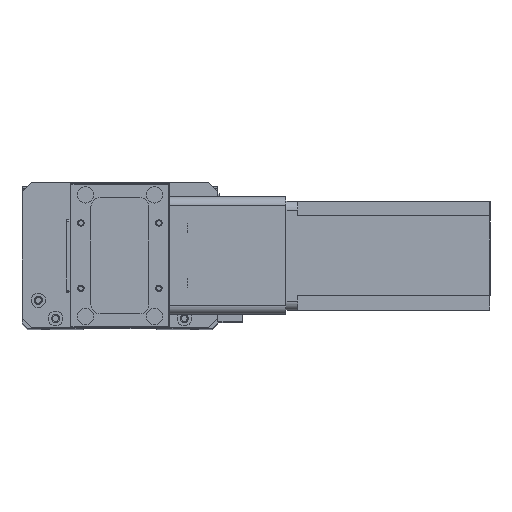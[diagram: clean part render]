
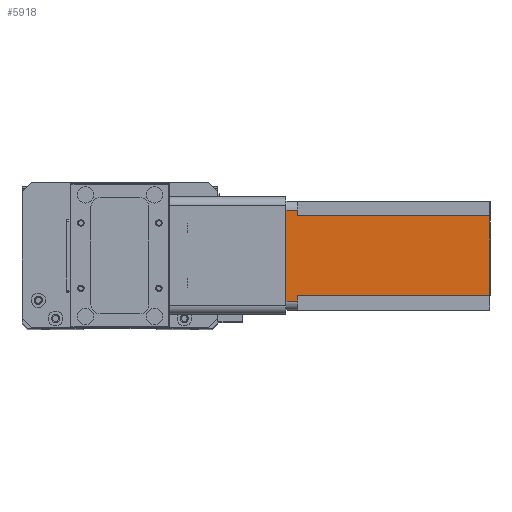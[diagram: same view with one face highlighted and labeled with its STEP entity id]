
A CAD part, top view. The second image highlights one B-rep face of the part: STEP entity #5918.
In plain terms, the highlighted planar face has unit normal (0, 0, 1) as drawn and (0, 1, 0) by its records, which use the part's own axes.
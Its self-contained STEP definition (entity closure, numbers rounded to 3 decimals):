
#280 = VECTOR ( 'NONE', #12351, 1000. ) ;
#429 = CARTESIAN_POINT ( 'NONE',  ( 52., 60., -6.5 ) ) ;
#661 = PLANE ( 'NONE',  #2883 ) ;
#745 = VECTOR ( 'NONE', #21604, 1000. ) ;
#1007 = CARTESIAN_POINT ( 'NONE',  ( 0., 60., 0. ) ) ;
#1807 = VECTOR ( 'NONE', #11116, 1000. ) ;
#1888 = ORIENTED_EDGE ( 'NONE', *, *, #19960, .F. ) ;
#2365 = DIRECTION ( 'NONE',  ( 1., 0., 0. ) ) ;
#2403 = LINE ( 'NONE', #7214, #1807 ) ;
#2883 = AXIS2_PLACEMENT_3D ( 'NONE', #6440, #10358, #23993 ) ;
#3086 = CARTESIAN_POINT ( 'NONE',  ( 52., 60., -6.5 ) ) ;
#3296 = EDGE_CURVE ( 'NONE', #23151, #22274, #9408, .T. ) ;
#3418 = LINE ( 'NONE', #5785, #22845 ) ;
#3483 = VERTEX_POINT ( 'NONE', #24194 ) ;
#4407 = EDGE_CURVE ( 'NONE', #23151, #23159, #2403, .T. ) ;
#5411 = LINE ( 'NONE', #6468, #280 ) ;
#5716 = ORIENTED_EDGE ( 'NONE', *, *, #10121, .T. ) ;
#5785 = CARTESIAN_POINT ( 'NONE',  ( 55., 60., -112.5 ) ) ;
#5918 = ADVANCED_FACE ( 'NONE', ( #19460 ), #661, .T. ) ;
#6194 = EDGE_LOOP ( 'NONE', ( #15505, #16143, #1888, #15882, #10814, #17402, #5716, #9010 ) ) ;
#6440 = CARTESIAN_POINT ( 'NONE',  ( 0., 60., -112.5 ) ) ;
#6468 = CARTESIAN_POINT ( 'NONE',  ( 5., 60., -112.5 ) ) ;
#7214 = CARTESIAN_POINT ( 'NONE',  ( 52., 60., -112.5 ) ) ;
#7345 = EDGE_CURVE ( 'NONE', #7471, #22274, #10870, .T. ) ;
#7471 = VERTEX_POINT ( 'NONE', #21410 ) ;
#7498 = VERTEX_POINT ( 'NONE', #15632 ) ;
#7818 = DIRECTION ( 'NONE',  ( 0., 0., -1. ) ) ;
#8447 = LINE ( 'NONE', #429, #18167 ) ;
#9010 = ORIENTED_EDGE ( 'NONE', *, *, #20074, .T. ) ;
#9408 = LINE ( 'NONE', #19764, #13991 ) ;
#9420 = CARTESIAN_POINT ( 'NONE',  ( 8., 60., -112.5 ) ) ;
#10121 = EDGE_CURVE ( 'NONE', #7471, #15599, #11002, .T. ) ;
#10358 = DIRECTION ( 'NONE',  ( 0., 1., 0. ) ) ;
#10646 = EDGE_CURVE ( 'NONE', #3483, #15054, #3418, .T. ) ;
#10814 = ORIENTED_EDGE ( 'NONE', *, *, #3296, .T. ) ;
#10853 = CARTESIAN_POINT ( 'NONE',  ( 52., 60., -112.5 ) ) ;
#10870 = LINE ( 'NONE', #9420, #21223 ) ;
#11002 = LINE ( 'NONE', #19652, #745 ) ;
#11116 = DIRECTION ( 'NONE',  ( 0., 0., 1. ) ) ;
#11372 = DIRECTION ( 'NONE',  ( 0., 0., -1. ) ) ;
#12351 = DIRECTION ( 'NONE',  ( 0., 0., 1. ) ) ;
#13367 = CARTESIAN_POINT ( 'NONE',  ( 8., 60., -112.5 ) ) ;
#13719 = EDGE_CURVE ( 'NONE', #3483, #7498, #13928, .T. ) ;
#13928 = LINE ( 'NONE', #1007, #19999 ) ;
#13991 = VECTOR ( 'NONE', #23609, 1000. ) ;
#14194 = CARTESIAN_POINT ( 'NONE',  ( 5., 60., -6.5 ) ) ;
#15054 = VERTEX_POINT ( 'NONE', #16413 ) ;
#15505 = ORIENTED_EDGE ( 'NONE', *, *, #13719, .F. ) ;
#15599 = VERTEX_POINT ( 'NONE', #14194 ) ;
#15632 = CARTESIAN_POINT ( 'NONE',  ( 5., 60., 0. ) ) ;
#15882 = ORIENTED_EDGE ( 'NONE', *, *, #4407, .F. ) ;
#16143 = ORIENTED_EDGE ( 'NONE', *, *, #10646, .T. ) ;
#16413 = CARTESIAN_POINT ( 'NONE',  ( 55., 60., -6.5 ) ) ;
#17402 = ORIENTED_EDGE ( 'NONE', *, *, #7345, .F. ) ;
#18167 = VECTOR ( 'NONE', #2365, 1000. ) ;
#18458 = DIRECTION ( 'NONE',  ( -1., 0., 0. ) ) ;
#19460 = FACE_OUTER_BOUND ( 'NONE', #6194, .T. ) ;
#19652 = CARTESIAN_POINT ( 'NONE',  ( 8., 60., -6.5 ) ) ;
#19764 = CARTESIAN_POINT ( 'NONE',  ( 0., 60., -112.5 ) ) ;
#19960 = EDGE_CURVE ( 'NONE', #23159, #15054, #8447, .T. ) ;
#19999 = VECTOR ( 'NONE', #18458, 1000. ) ;
#20074 = EDGE_CURVE ( 'NONE', #15599, #7498, #5411, .T. ) ;
#21223 = VECTOR ( 'NONE', #11372, 1000. ) ;
#21410 = CARTESIAN_POINT ( 'NONE',  ( 8., 60., -6.5 ) ) ;
#21604 = DIRECTION ( 'NONE',  ( -1., 0., 0. ) ) ;
#22274 = VERTEX_POINT ( 'NONE', #13367 ) ;
#22845 = VECTOR ( 'NONE', #7818, 1000. ) ;
#23151 = VERTEX_POINT ( 'NONE', #10853 ) ;
#23159 = VERTEX_POINT ( 'NONE', #3086 ) ;
#23609 = DIRECTION ( 'NONE',  ( -1., 0., 0. ) ) ;
#23993 = DIRECTION ( 'NONE',  ( 0., 0., 1. ) ) ;
#24194 = CARTESIAN_POINT ( 'NONE',  ( 55., 60., 0. ) ) ;
